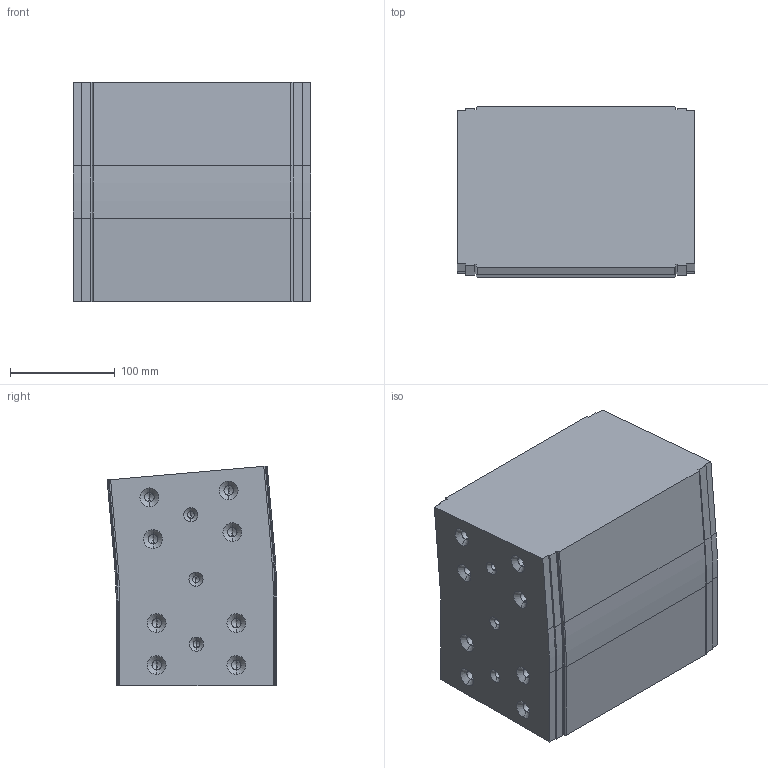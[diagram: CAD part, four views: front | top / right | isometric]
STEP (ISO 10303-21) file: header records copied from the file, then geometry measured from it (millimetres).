
FILE_DESCRIPTION (( 'STEP AP214' ), '1' );
FILE_NAME ('F2 750 CV500 x.step', '2017-04-05T07:34:06', ( '' ), ( '' ), 'SwSTEP 2.0', 'SolidWorks 2015', '' );
FILE_SCHEMA (( 'AUTOMOTIVE_DESIGN' ));
Length unit declared in the file: millimetre
Products named in the file (1): F2 750 CV500 x
Bounding box: 227 x 161.98 x 209.96 mm (x, y, z)
Volume: 7020588.7 mm3; surface area: 235882.7 mm2
Topology: 1 solids, 1 shells, 202 faces, 504 edges, 282 vertices
Faces by surface type: cone 88, cylinder 66, plane 44, torus 4
Entity records: 7404 total; most frequent: DIRECTION 1046, CARTESIAN_POINT 945, ORIENTED_EDGE 920, EDGE_CURVE 460, AXIS2_PLACEMENT_3D 383, VERTEX_POINT 282, VECTOR 280, LINE 280
